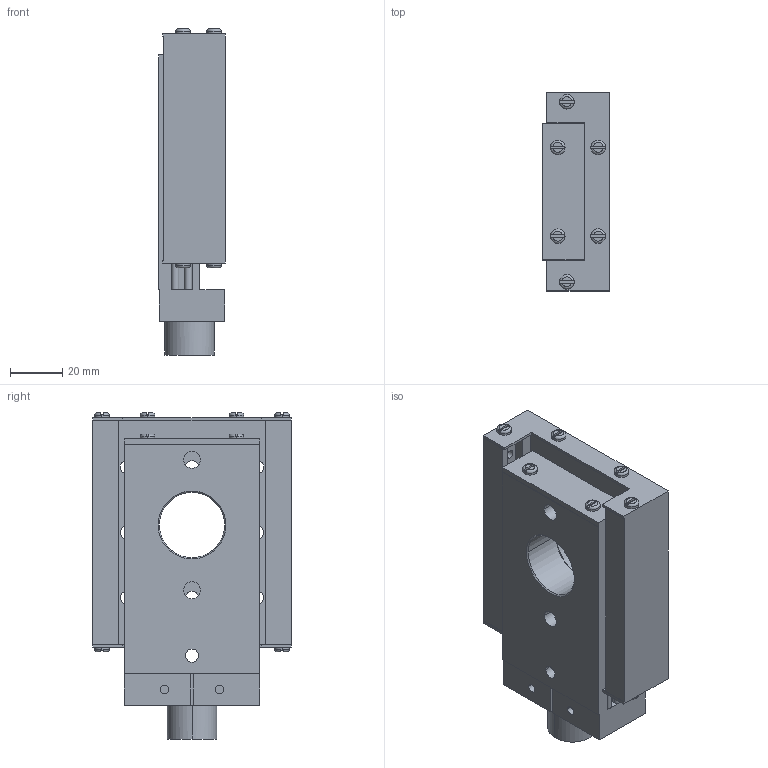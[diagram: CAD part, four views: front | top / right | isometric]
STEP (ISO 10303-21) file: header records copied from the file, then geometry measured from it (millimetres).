
FILE_DESCRIPTION((''),'2;1');
FILE_NAME('860-0050_SW0001','2014-08-01T',('Julija'),(''),'PRO/ENGINEER BY PARAMETRIC TECHNOLOGY CORPORATION, 2014090','PRO/ENGINEER BY PARAMETRIC TECHNOLOGY CORPORATION, 2014090','');
FILE_SCHEMA(('CONFIG_CONTROL_DESIGN'));
Length unit declared in the file: inch
Products named in the file (1): 860-0050_SW0001
Bounding box: 26 x 76 x 124.97 mm (x, y, z)
Volume: 136774.9 mm3; surface area: 53168.6 mm2
Topology: 2 solids, 2 shells, 415 faces, 1102 edges, 684 vertices
Faces by surface type: plane 212, cylinder 115, cone 56, torus 32
Entity records: 14114 total; most frequent: CARTESIAN_POINT 3537, DIRECTION 2272, ORIENTED_EDGE 2180, EDGE_CURVE 1090, AXIS2_PLACEMENT_3D 855, VERTEX_POINT 684, VECTOR 562, LINE 562
